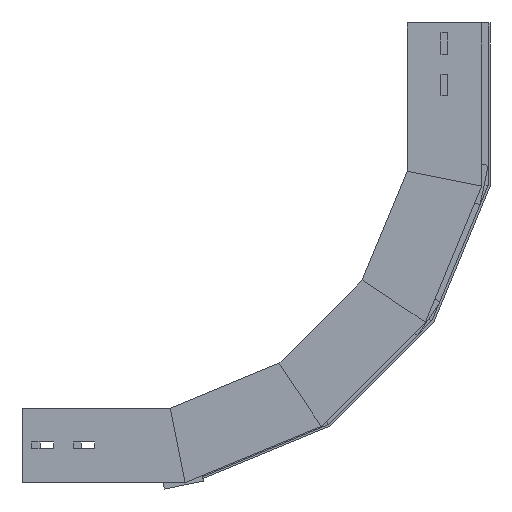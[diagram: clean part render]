
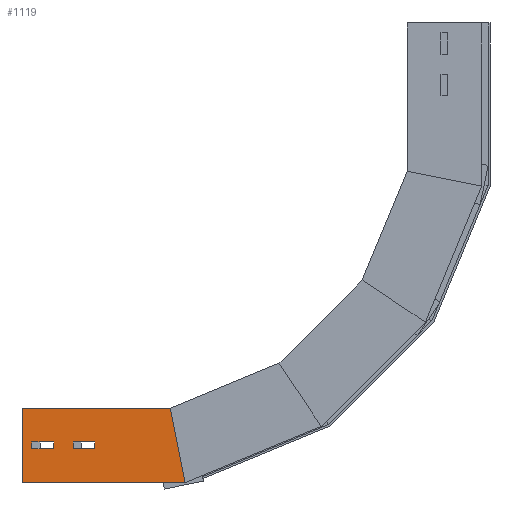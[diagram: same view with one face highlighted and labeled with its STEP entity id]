
A CAD part, left-side view. The second image highlights one B-rep face of the part: STEP entity #1119.
In plain terms, the highlighted planar face has unit normal (-1, 0, 0) as drawn and (1, 0, 0) by its records, which use the part's own axes.
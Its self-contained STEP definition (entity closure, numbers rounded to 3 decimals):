
#30 = LINE ( 'NONE', #444, #885 ) ;
#34 = EDGE_CURVE ( 'NONE', #615, #45, #864, .T. ) ;
#39 = DIRECTION ( 'NONE',  ( 0., 0., 1. ) ) ;
#40 = ORIENTED_EDGE ( 'NONE', *, *, #1267, .F. ) ;
#45 = VERTEX_POINT ( 'NONE', #1132 ) ;
#63 = VECTOR ( 'NONE', #1555, 1000. ) ;
#66 = CARTESIAN_POINT ( 'NONE',  ( 0., 41., -31.835 ) ) ;
#90 = EDGE_CURVE ( 'NONE', #1110, #1177, #1142, .T. ) ;
#109 = ORIENTED_EDGE ( 'NONE', *, *, #688, .T. ) ;
#112 = CARTESIAN_POINT ( 'NONE',  ( 0., 41., -51.505 ) ) ;
#113 = CARTESIAN_POINT ( 'NONE',  ( 0., 41., -51.505 ) ) ;
#151 = DIRECTION ( 'NONE',  ( 0., -0.981, -0.195 ) ) ;
#158 = VECTOR ( 'NONE', #1134, 1000. ) ;
#172 = CARTESIAN_POINT ( 'NONE',  ( 0., 34., -31.835 ) ) ;
#178 = LINE ( 'NONE', #903, #1063 ) ;
#194 = LINE ( 'NONE', #479, #1389 ) ;
#244 = FACE_OUTER_BOUND ( 'NONE', #788, .T. ) ;
#252 = CARTESIAN_POINT ( 'NONE',  ( 0., 0., 0. ) ) ;
#254 = FACE_BOUND ( 'NONE', #1786, .T. ) ;
#278 = DIRECTION ( 'NONE',  ( 0., 0., -1. ) ) ;
#298 = CARTESIAN_POINT ( 'NONE',  ( 0., 75., 0. ) ) ;
#356 = LINE ( 'NONE', #932, #1241 ) ;
#367 = ORIENTED_EDGE ( 'NONE', *, *, #1007, .T. ) ;
#369 = LINE ( 'NONE', #66, #1519 ) ;
#381 = DIRECTION ( 'NONE',  ( 0., 1., 0. ) ) ;
#396 = EDGE_CURVE ( 'NONE', #784, #1610, #423, .T. ) ;
#423 = LINE ( 'NONE', #113, #969 ) ;
#444 = CARTESIAN_POINT ( 'NONE',  ( 0., 31.495, -158.335 ) ) ;
#452 = CARTESIAN_POINT ( 'NONE',  ( 0., 0., 0. ) ) ;
#479 = CARTESIAN_POINT ( 'NONE',  ( 0., 34., -9.835 ) ) ;
#487 = ORIENTED_EDGE ( 'NONE', *, *, #1674, .F. ) ;
#526 = CARTESIAN_POINT ( 'NONE',  ( 0., 41., -73.505 ) ) ;
#545 = CARTESIAN_POINT ( 'NONE',  ( 0., 0., 0. ) ) ;
#553 = PLANE ( 'NONE',  #1492 ) ;
#615 = VERTEX_POINT ( 'NONE', #1826 ) ;
#628 = EDGE_CURVE ( 'NONE', #962, #1339, #369, .T. ) ;
#653 = CARTESIAN_POINT ( 'NONE',  ( 0., 34., -51.505 ) ) ;
#667 = CARTESIAN_POINT ( 'NONE',  ( 0., 41., -9.835 ) ) ;
#682 = FACE_BOUND ( 'NONE', #1794, .T. ) ;
#686 = EDGE_CURVE ( 'NONE', #1037, #784, #1870, .T. ) ;
#688 = EDGE_CURVE ( 'NONE', #1610, #1614, #1595, .T. ) ;
#689 = ORIENTED_EDGE ( 'NONE', *, *, #90, .T. ) ;
#723 = CARTESIAN_POINT ( 'NONE',  ( 0., 41., -51.505 ) ) ;
#743 = CARTESIAN_POINT ( 'NONE',  ( 0., 41., -9.835 ) ) ;
#784 = VERTEX_POINT ( 'NONE', #723 ) ;
#788 = EDGE_LOOP ( 'NONE', ( #487, #1280, #689, #40 ) ) ;
#798 = VECTOR ( 'NONE', #278, 1000. ) ;
#841 = DIRECTION ( 'NONE',  ( 0., -1., 0. ) ) ;
#864 = LINE ( 'NONE', #743, #1304 ) ;
#872 = EDGE_CURVE ( 'NONE', #1339, #615, #194, .T. ) ;
#885 = VECTOR ( 'NONE', #151, 1000. ) ;
#903 = CARTESIAN_POINT ( 'NONE',  ( 0., 75., 0. ) ) ;
#923 = ORIENTED_EDGE ( 'NONE', *, *, #34, .T. ) ;
#925 = CARTESIAN_POINT ( 'NONE',  ( 0., 75., -149.682 ) ) ;
#932 = CARTESIAN_POINT ( 'NONE',  ( 0., 34., -51.505 ) ) ;
#962 = VERTEX_POINT ( 'NONE', #1503 ) ;
#969 = VECTOR ( 'NONE', #1001, 1000. ) ;
#982 = CARTESIAN_POINT ( 'NONE',  ( 0., 34., -73.505 ) ) ;
#1001 = DIRECTION ( 'NONE',  ( 0., 0., -1. ) ) ;
#1007 = EDGE_CURVE ( 'NONE', #1614, #1037, #356, .T. ) ;
#1026 = DIRECTION ( 'NONE',  ( 0., 1., 0. ) ) ;
#1037 = VERTEX_POINT ( 'NONE', #653 ) ;
#1051 = VERTEX_POINT ( 'NONE', #925 ) ;
#1063 = VECTOR ( 'NONE', #1188, 1000. ) ;
#1110 = VERTEX_POINT ( 'NONE', #545 ) ;
#1111 = DIRECTION ( 'NONE',  ( 0., 0., 1. ) ) ;
#1119 = ADVANCED_FACE ( 'NONE', ( #682, #244, #254 ), #553, .F. ) ;
#1132 = CARTESIAN_POINT ( 'NONE',  ( 0., 41., -9.835 ) ) ;
#1134 = DIRECTION ( 'NONE',  ( 0., 1., 0. ) ) ;
#1142 = LINE ( 'NONE', #452, #798 ) ;
#1177 = VERTEX_POINT ( 'NONE', #1408 ) ;
#1188 = DIRECTION ( 'NONE',  ( 0., 0., -1. ) ) ;
#1213 = VECTOR ( 'NONE', #381, 1000. ) ;
#1241 = VECTOR ( 'NONE', #1536, 1000. ) ;
#1252 = DIRECTION ( 'NONE',  ( -1., 0., 0. ) ) ;
#1267 = EDGE_CURVE ( 'NONE', #1051, #1177, #30, .T. ) ;
#1280 = ORIENTED_EDGE ( 'NONE', *, *, #1613, .F. ) ;
#1304 = VECTOR ( 'NONE', #1026, 1000. ) ;
#1339 = VERTEX_POINT ( 'NONE', #172 ) ;
#1374 = ORIENTED_EDGE ( 'NONE', *, *, #628, .T. ) ;
#1389 = VECTOR ( 'NONE', #39, 1000. ) ;
#1404 = ORIENTED_EDGE ( 'NONE', *, *, #872, .T. ) ;
#1408 = CARTESIAN_POINT ( 'NONE',  ( 0., 0., -164.6 ) ) ;
#1423 = VECTOR ( 'NONE', #841, 1000. ) ;
#1492 = AXIS2_PLACEMENT_3D ( 'NONE', #1592, #1252, #1111 ) ;
#1503 = CARTESIAN_POINT ( 'NONE',  ( 0., 41., -31.835 ) ) ;
#1519 = VECTOR ( 'NONE', #1684, 1000. ) ;
#1536 = DIRECTION ( 'NONE',  ( 0., 0., 1. ) ) ;
#1546 = ORIENTED_EDGE ( 'NONE', *, *, #396, .T. ) ;
#1555 = DIRECTION ( 'NONE',  ( 0., 0., -1. ) ) ;
#1568 = ORIENTED_EDGE ( 'NONE', *, *, #1585, .T. ) ;
#1585 = EDGE_CURVE ( 'NONE', #45, #962, #1847, .T. ) ;
#1592 = CARTESIAN_POINT ( 'NONE',  ( 0., 0., 0. ) ) ;
#1595 = LINE ( 'NONE', #1734, #1423 ) ;
#1610 = VERTEX_POINT ( 'NONE', #526 ) ;
#1613 = EDGE_CURVE ( 'NONE', #1110, #1692, #1874, .T. ) ;
#1614 = VERTEX_POINT ( 'NONE', #982 ) ;
#1674 = EDGE_CURVE ( 'NONE', #1692, #1051, #178, .T. ) ;
#1684 = DIRECTION ( 'NONE',  ( 0., -1., 0. ) ) ;
#1692 = VERTEX_POINT ( 'NONE', #298 ) ;
#1734 = CARTESIAN_POINT ( 'NONE',  ( 0., 41., -73.505 ) ) ;
#1786 = EDGE_LOOP ( 'NONE', ( #923, #1568, #1374, #1404 ) ) ;
#1792 = ORIENTED_EDGE ( 'NONE', *, *, #686, .T. ) ;
#1794 = EDGE_LOOP ( 'NONE', ( #1792, #1546, #109, #367 ) ) ;
#1826 = CARTESIAN_POINT ( 'NONE',  ( 0., 34., -9.835 ) ) ;
#1847 = LINE ( 'NONE', #667, #63 ) ;
#1870 = LINE ( 'NONE', #112, #158 ) ;
#1874 = LINE ( 'NONE', #252, #1213 ) ;
